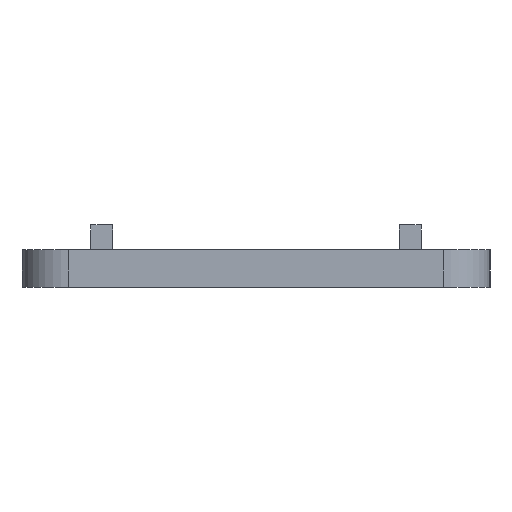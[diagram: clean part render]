
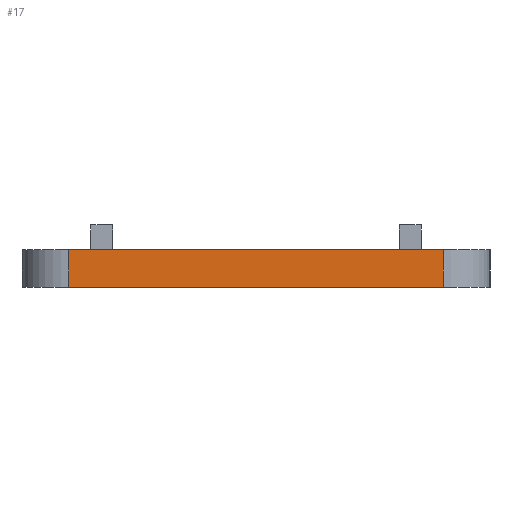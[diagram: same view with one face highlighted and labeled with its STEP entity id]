
A CAD part, left-side view. The second image highlights one B-rep face of the part: STEP entity #17.
In plain terms, the highlighted planar face has unit normal (-1, 0, 0).
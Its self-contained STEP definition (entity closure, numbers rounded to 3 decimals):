
#17 = ADVANCED_FACE('',(#18),#32,.F.);
#18 = FACE_BOUND('',#19,.F.);
#19 = EDGE_LOOP('',(#20,#55,#83,#111));
#20 = ORIENTED_EDGE('',*,*,#21,.F.);
#21 = EDGE_CURVE('',#22,#24,#26,.T.);
#22 = VERTEX_POINT('',#23);
#23 = CARTESIAN_POINT('',(-57.,-12.,2.4));
#24 = VERTEX_POINT('',#25);
#25 = CARTESIAN_POINT('',(-57.,12.,2.4));
#26 = SURFACE_CURVE('',#27,(#31,#43),.PCURVE_S1.);
#27 = LINE('',#28,#29);
#28 = CARTESIAN_POINT('',(-57.,-15.,2.4));
#29 = VECTOR('',#30,1.);
#30 = DIRECTION('',(0.,1.,0.));
#31 = PCURVE('',#32,#37);
#32 = PLANE('',#33);
#33 = AXIS2_PLACEMENT_3D('',#34,#35,#36);
#34 = CARTESIAN_POINT('',(-57.,-15.,0.));
#35 = DIRECTION('',(1.,0.,0.));
#36 = DIRECTION('',(0.,0.,1.));
#37 = DEFINITIONAL_REPRESENTATION('',(#38),#42);
#38 = LINE('',#39,#40);
#39 = CARTESIAN_POINT('',(2.4,0.));
#40 = VECTOR('',#41,1.);
#41 = DIRECTION('',(0.,-1.));
#42 = ( GEOMETRIC_REPRESENTATION_CONTEXT(2) 
PARAMETRIC_REPRESENTATION_CONTEXT() REPRESENTATION_CONTEXT('2D SPACE',''
  ) );
#43 = PCURVE('',#44,#49);
#44 = PLANE('',#45);
#45 = AXIS2_PLACEMENT_3D('',#46,#47,#48);
#46 = CARTESIAN_POINT('',(-57.,-15.,2.4));
#47 = DIRECTION('',(0.,0.,1.));
#48 = DIRECTION('',(1.,0.,0.));
#49 = DEFINITIONAL_REPRESENTATION('',(#50),#54);
#50 = LINE('',#51,#52);
#51 = CARTESIAN_POINT('',(0.,0.));
#52 = VECTOR('',#53,1.);
#53 = DIRECTION('',(0.,1.));
#54 = ( GEOMETRIC_REPRESENTATION_CONTEXT(2) 
PARAMETRIC_REPRESENTATION_CONTEXT() REPRESENTATION_CONTEXT('2D SPACE',''
  ) );
#55 = ORIENTED_EDGE('',*,*,#56,.F.);
#56 = EDGE_CURVE('',#57,#22,#59,.T.);
#57 = VERTEX_POINT('',#58);
#58 = CARTESIAN_POINT('',(-57.,-12.,0.));
#59 = SURFACE_CURVE('',#60,(#64,#71),.PCURVE_S1.);
#60 = LINE('',#61,#62);
#61 = CARTESIAN_POINT('',(-57.,-12.,0.));
#62 = VECTOR('',#63,1.);
#63 = DIRECTION('',(0.,0.,1.));
#64 = PCURVE('',#32,#65);
#65 = DEFINITIONAL_REPRESENTATION('',(#66),#70);
#66 = LINE('',#67,#68);
#67 = CARTESIAN_POINT('',(0.,-3.));
#68 = VECTOR('',#69,1.);
#69 = DIRECTION('',(1.,0.));
#70 = ( GEOMETRIC_REPRESENTATION_CONTEXT(2) 
PARAMETRIC_REPRESENTATION_CONTEXT() REPRESENTATION_CONTEXT('2D SPACE',''
  ) );
#71 = PCURVE('',#72,#77);
#72 = CYLINDRICAL_SURFACE('',#73,3.);
#73 = AXIS2_PLACEMENT_3D('',#74,#75,#76);
#74 = CARTESIAN_POINT('',(-54.,-12.,0.));
#75 = DIRECTION('',(0.,0.,1.));
#76 = DIRECTION('',(-1.,-0.,0.));
#77 = DEFINITIONAL_REPRESENTATION('',(#78),#82);
#78 = LINE('',#79,#80);
#79 = CARTESIAN_POINT('',(0.,0.));
#80 = VECTOR('',#81,1.);
#81 = DIRECTION('',(0.,1.));
#82 = ( GEOMETRIC_REPRESENTATION_CONTEXT(2) 
PARAMETRIC_REPRESENTATION_CONTEXT() REPRESENTATION_CONTEXT('2D SPACE',''
  ) );
#83 = ORIENTED_EDGE('',*,*,#84,.T.);
#84 = EDGE_CURVE('',#57,#85,#87,.T.);
#85 = VERTEX_POINT('',#86);
#86 = CARTESIAN_POINT('',(-57.,12.,0.));
#87 = SURFACE_CURVE('',#88,(#92,#99),.PCURVE_S1.);
#88 = LINE('',#89,#90);
#89 = CARTESIAN_POINT('',(-57.,-15.,0.));
#90 = VECTOR('',#91,1.);
#91 = DIRECTION('',(0.,1.,0.));
#92 = PCURVE('',#32,#93);
#93 = DEFINITIONAL_REPRESENTATION('',(#94),#98);
#94 = LINE('',#95,#96);
#95 = CARTESIAN_POINT('',(0.,0.));
#96 = VECTOR('',#97,1.);
#97 = DIRECTION('',(0.,-1.));
#98 = ( GEOMETRIC_REPRESENTATION_CONTEXT(2) 
PARAMETRIC_REPRESENTATION_CONTEXT() REPRESENTATION_CONTEXT('2D SPACE',''
  ) );
#99 = PCURVE('',#100,#105);
#100 = PLANE('',#101);
#101 = AXIS2_PLACEMENT_3D('',#102,#103,#104);
#102 = CARTESIAN_POINT('',(-57.,-15.,0.));
#103 = DIRECTION('',(0.,0.,1.));
#104 = DIRECTION('',(1.,0.,0.));
#105 = DEFINITIONAL_REPRESENTATION('',(#106),#110);
#106 = LINE('',#107,#108);
#107 = CARTESIAN_POINT('',(0.,0.));
#108 = VECTOR('',#109,1.);
#109 = DIRECTION('',(0.,1.));
#110 = ( GEOMETRIC_REPRESENTATION_CONTEXT(2) 
PARAMETRIC_REPRESENTATION_CONTEXT() REPRESENTATION_CONTEXT('2D SPACE',''
  ) );
#111 = ORIENTED_EDGE('',*,*,#112,.T.);
#112 = EDGE_CURVE('',#85,#24,#113,.T.);
#113 = SURFACE_CURVE('',#114,(#118,#125),.PCURVE_S1.);
#114 = LINE('',#115,#116);
#115 = CARTESIAN_POINT('',(-57.,12.,0.));
#116 = VECTOR('',#117,1.);
#117 = DIRECTION('',(0.,0.,1.));
#118 = PCURVE('',#32,#119);
#119 = DEFINITIONAL_REPRESENTATION('',(#120),#124);
#120 = LINE('',#121,#122);
#121 = CARTESIAN_POINT('',(0.,-27.));
#122 = VECTOR('',#123,1.);
#123 = DIRECTION('',(1.,0.));
#124 = ( GEOMETRIC_REPRESENTATION_CONTEXT(2) 
PARAMETRIC_REPRESENTATION_CONTEXT() REPRESENTATION_CONTEXT('2D SPACE',''
  ) );
#125 = PCURVE('',#126,#131);
#126 = CYLINDRICAL_SURFACE('',#127,3.);
#127 = AXIS2_PLACEMENT_3D('',#128,#129,#130);
#128 = CARTESIAN_POINT('',(-54.,12.,0.));
#129 = DIRECTION('',(0.,0.,1.));
#130 = DIRECTION('',(-1.,-0.,0.));
#131 = DEFINITIONAL_REPRESENTATION('',(#132),#136);
#132 = LINE('',#133,#134);
#133 = CARTESIAN_POINT('',(-0.,0.));
#134 = VECTOR('',#135,1.);
#135 = DIRECTION('',(-0.,1.));
#136 = ( GEOMETRIC_REPRESENTATION_CONTEXT(2) 
PARAMETRIC_REPRESENTATION_CONTEXT() REPRESENTATION_CONTEXT('2D SPACE',''
  ) );
